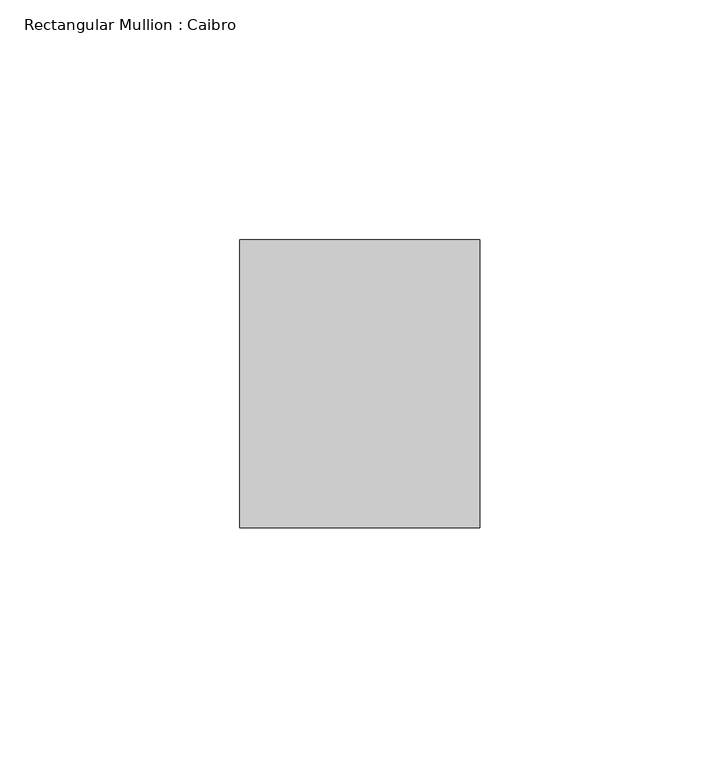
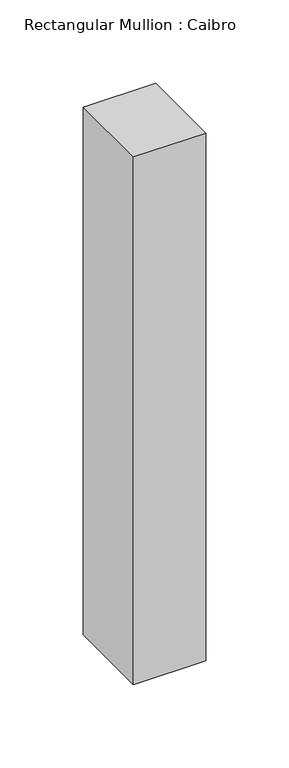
"""IFC4 building model written with IfcOpenShell, lengths in millimetres: member geometry, Rectangular Mullion : Caibro."""

from ifc_helpers import new_model, si_unit, frame, origin, place, context, project, spatial, polyline, outline, extrude, source, transform, mapped, element, save


def rectangular_mullion_caibro_e4384bba(model_context):
    return source(origin(), model_context, "Body", "SweptSolid", [
        extrude(outline(polyline([(-25.0, -60.0), (-25.0, 0.0), (25.0, 0.0), (25.0, -60.0), (-25.0, -60.0)])), frame((0.0, 0.0, -386.4764043), z_axis=(0.0, 0.0, 1.0), x_axis=(1.0, 0.0, 0.0)), (0.0, 0.0, 1.0), 386.4764043),
    ])


if __name__ == "__main__":
    model = new_model("IFC4")
    model_context = context("Model", 3, world=origin())
    ifc_project = project(units=[si_unit("LENGTHUNIT", "METRE", prefix="MILLI")], contexts=[model_context])
    site = spatial("IfcSite", under=ifc_project)
    building = spatial("IfcBuilding", under=site)
    placement = place(None, origin())
    rectangular_mullion_caibro_shape = rectangular_mullion_caibro_e4384bba(model_context)
    element("IfcMember", 1, ObjectType="Rectangular Mullion : Caibro", at=placement, inside=building, context=model_context, shape_type="MappedRepresentation", body=[
        mapped(rectangular_mullion_caibro_shape, transform((0.0, 0.0, 0.0), x_axis=(1.0, 0.0, 0.0), y_axis=(0.0, 1.0, 0.0), z_axis=(0.0, 0.0, 1.0))),
    ])
    save(model, "model.ifc")
